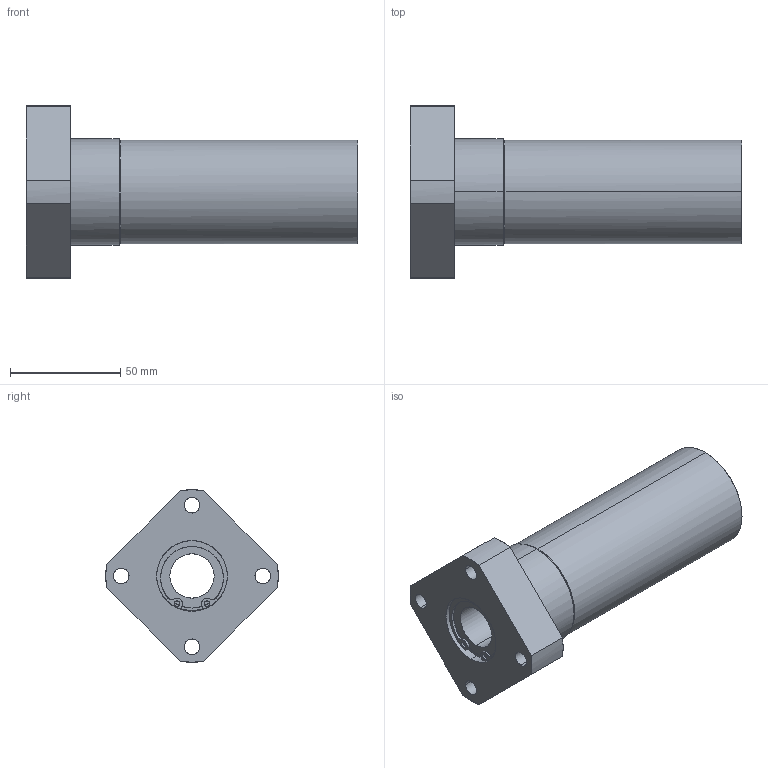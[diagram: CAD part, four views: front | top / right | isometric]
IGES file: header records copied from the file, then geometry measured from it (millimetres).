
Global section: file name: No Iges File Name specified; native system: AutoDesk Inventor R11.0; preprocessor: AutoDesk Inventor Iges Exporter R11.0; author: No Author specified; organization: No Organization specified; date: 20170922.134240; units: millimetre
Bounding box: 150 x 77.99 x 78 mm (x, y, z)
Surface area: 46290.3 mm2 (no closed solid volume)
Topology: 0 solids, 0 shells, 130 faces, 936 edges, 936 vertices
Faces by surface type: bspline 130
